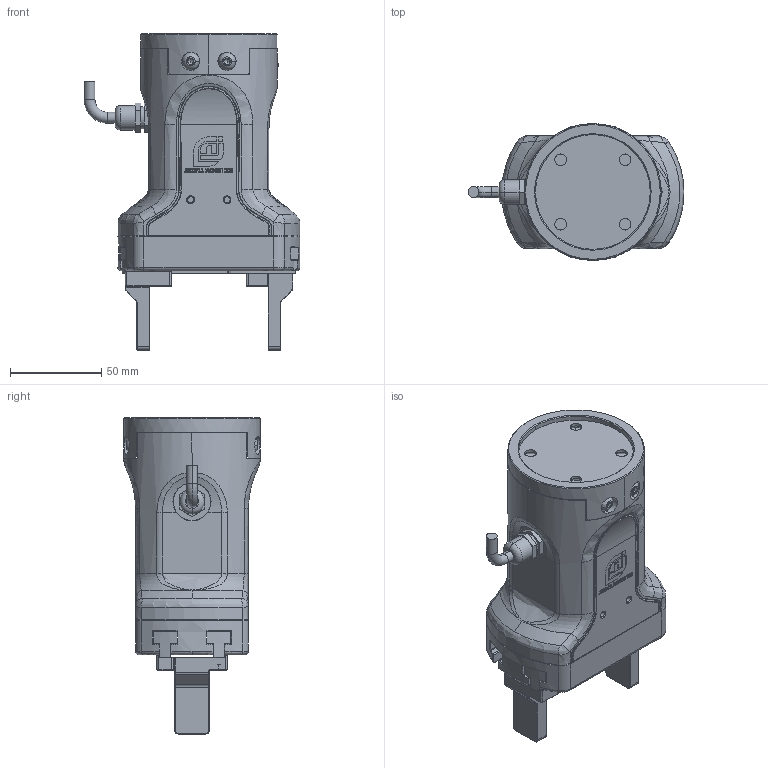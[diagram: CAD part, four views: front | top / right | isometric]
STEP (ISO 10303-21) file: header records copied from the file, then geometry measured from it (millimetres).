
FILE_DESCRIPTION (( 'STEP AP214' ), '1' );
FILE_NAME ('RG75-300-0L#-C0024-P65-A00.STEP', '2021-12-29T07:45:18', ( 'User' ), ( 'China' ), 'SwSTEP 2.0', 'SolidWorks 2016', '' );
FILE_SCHEMA (( 'AUTOMOTIVE_DESIGN' ));
Length unit declared in the file: millimetre
Products named in the file (2): RG75-300-0L#-C0024-P65-A00
Bounding box: 118.5 x 75 x 173.5 mm (x, y, z)
Volume: 591183.6 mm3; surface area: 107278.7 mm2
Topology: 32 solids, 33 shells, 1784 faces, 4254 edges, 2619 vertices
Faces by surface type: plane 708, bspline 385, cylinder 317, cone 274, torus 90, sphere 10
Entity records: 92318 total; most frequent: CARTESIAN_POINT 33919, ORIENTED_EDGE 8396, DIRECTION 6964, EDGE_CURVE 4198, VERTEX_POINT 2619, AXIS2_PLACEMENT_3D 2435, LINE 2094, VECTOR 2094
